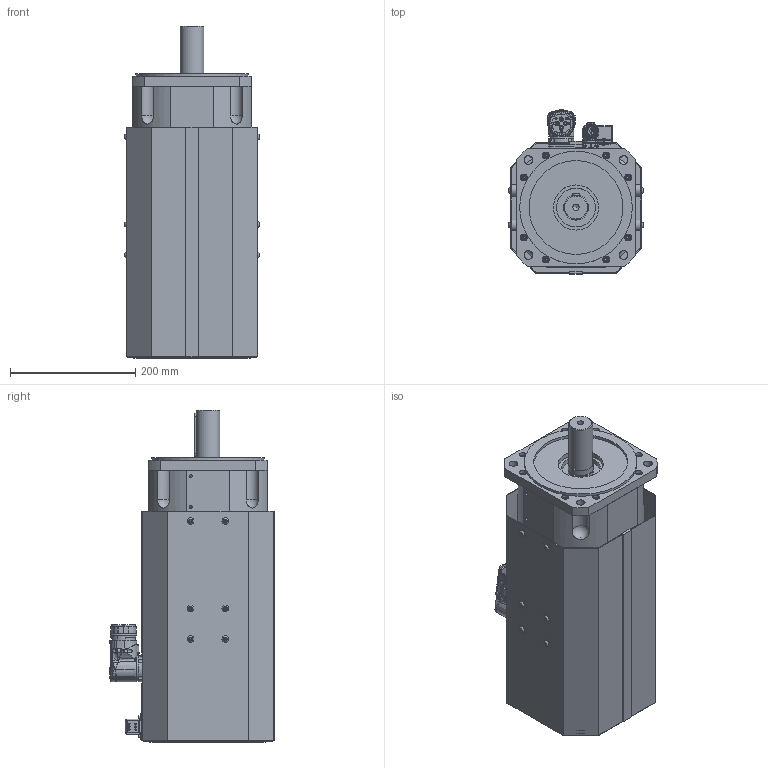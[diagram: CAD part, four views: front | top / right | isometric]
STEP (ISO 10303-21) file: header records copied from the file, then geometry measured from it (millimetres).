
FILE_DESCRIPTION(/* description */ (''),/* implementation_level */ '2;1');
FILE_NAME(/* name */ 'C:\Users\Public\Documents\Autodesk\Inventor LT 2014\Workspace\Motori Sito WEB\TG_6\DSF5_6x\STEP_DSF5_6x\DSF5_64_x099.stp',/* time_stamp */ '2021-04-06T09:42:10+02:00',/* author */ ('marcor'),/* organization */ (''),/* preprocessor_version */ 'ST-DEVELOPER v15.2',/* originating_system */ 'Autodesk Inventor LT ',/* authorisation */ '');
FILE_SCHEMA (('AUTOMOTIVE_DESIGN { 1 0 10303 214 3 1 1 }'));
Products named in the file (1): DSF5_64_x099
Bounding box: 215 x 262.25 x 530.5 mm (x, y, z)
Volume: 12045641.9 mm3; surface area: 1238170.7 mm2
Topology: 32 solids, 46 shells, 2489 faces, 6215 edges, 3994 vertices
Faces by surface type: plane 1082, cylinder 528, cone 505, bspline 177, torus 151, sphere 46
Full cylindrical faces by diameter (mm): 1.2 x12, 2 x2, 2.2 x4, 2.224 x4, 2.4 x6, 2.5 x4, 2.88 x4, 3 x4, 3.26 x4, 3.5 x10, 3.6 x5, 4 x5, 4.5 x1, 4.8 x4, 4.917 x36, 5 x7, 5.1 x4, 5.4 x1, 5.5 x3, 5.9 x1, 6 x32, 6.5 x32, 7 x4, 8 x3, 8.5 x1, 10 x20, 10.106 x1, 11 x20, 12 x1, 14 x4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
Entity records: 79627 total; most frequent: CARTESIAN_POINT 23484, ORIENTED_EDGE 10862, DIRECTION 10810, EDGE_CURVE 5377, AXIS2_PLACEMENT_3D 4302, VERTEX_POINT 3754, EDGE_LOOP 3379, ADVANCED_FACE 2489
